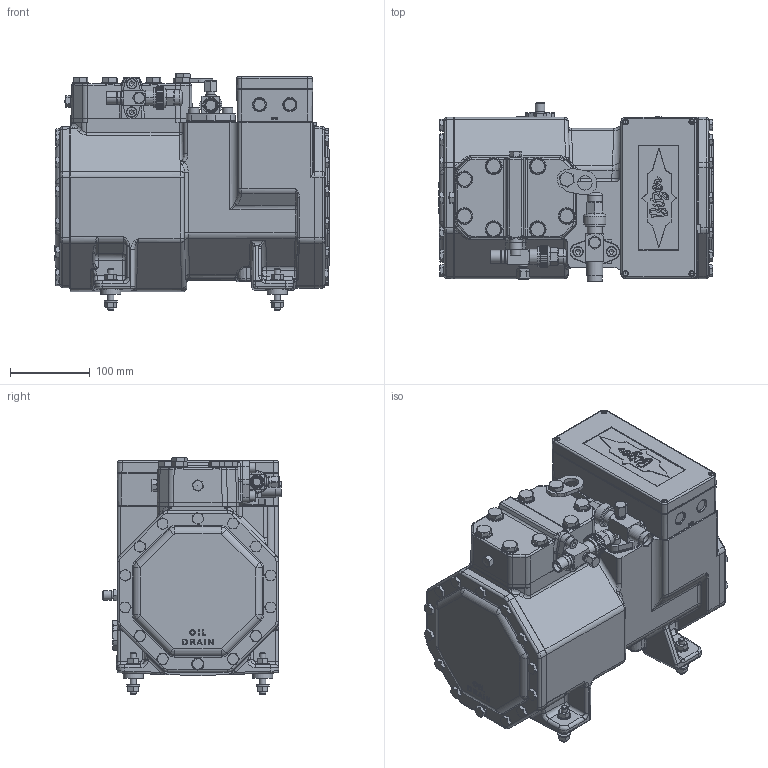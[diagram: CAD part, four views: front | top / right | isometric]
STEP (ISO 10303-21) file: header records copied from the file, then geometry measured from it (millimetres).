
FILE_DESCRIPTION(/* description */ (''),/* implementation_level */ '2;1');
FILE_NAME(/* name */ '2KES-2JES-2HES-2GES-2FES-STD.stp',/* time_stamp */ '2023-12-14T11:08:36+01:00',/* author */ (''),/* organization */ (''),/* preprocessor_version */ 'ST-DEVELOPER v19.3',/* originating_system */ 'SIEMENS PLM Software NX2212.3001',/* authorisation */ '');
FILE_SCHEMA (('AUTOMOTIVE_DESIGN { 1 0 10303 214 3 1 1 1 }'));
Products named in the file (8): TERMINAL-BOX-CE1; DAMPER-ELEMENT-COMPL-C1; BEARING-COVER-CE1; VALVE-PLATE-D30-D34; SHUT-OFF-VALVE-COMPL-D16L-5-8; HOUSING-COVER-C1-WITH-14-SCRE; BODY-CE1; 2KES-2JES-2HES-2GES-2FES-STD
Assembly tree (10 placements, depth 2):
  2KES-2JES-2HES-2GES-2FES-STD
    BODY-CE1
    HOUSING-COVER-C1-WITH-14-SCRE
    SHUT-OFF-VALVE-COMPL-D16L-5-8
    VALVE-PLATE-D30-D34
    BEARING-COVER-CE1
    DAMPER-ELEMENT-COMPL-C1  x4
    TERMINAL-BOX-CE1
Bounding box: 343.76 x 223.75 x 296.29 mm (x, y, z)
Volume: 13676392.4 mm3; surface area: 667538.5 mm2
Topology: 11 solids, 12 shells, 3752 faces, 9112 edges, 5612 vertices
Faces by surface type: plane 1541, cylinder 809, cone 573, bspline 445, extrusion 173, torus 146, sphere 65
Full cylindrical faces by diameter (mm): 4.5 x1, 6.8 x2, 6.985 x2, 7.188 x2, 7.794 x48, 8.4 x8, 8.5 x14, 9 x6, 9.5 x1, 10 x1, 10.287 x1, 10.29 x2, 11.6 x27, 12 x3, 12.5 x1, 13 x4, 14 x1, 15 x2, 16 x8, 16.1 x1, 17 x1, 18 x1, 19 x3, 20 x1, 24 x1, 25 x4, 28 x1, 29 x4, 40 x1, 160 x1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
Entity records: 124009 total; most frequent: CARTESIAN_POINT 38518, ORIENTED_EDGE 16480, DIRECTION 15373, EDGE_CURVE 8240, AXIS2_PLACEMENT_3D 5996, VERTEX_POINT 5252, EDGE_LOOP 4126, ADVANCED_FACE 3563
